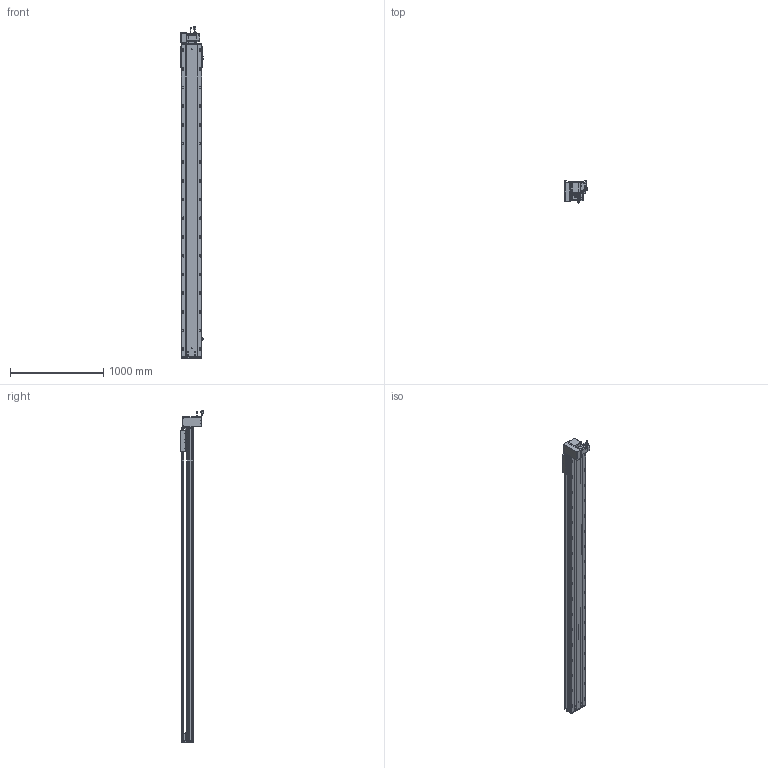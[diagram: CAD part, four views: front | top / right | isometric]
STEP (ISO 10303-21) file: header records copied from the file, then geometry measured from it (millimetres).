
FILE_DESCRIPTION (( 'STEP AP203' ), '1' );
FILE_NAME ('RY220-T-300-DL.SLDASM_3000.step', '2022-07-25T07:55:30', ( '' ), ( '' ), 'SwSTEP 2.0', 'SolidWorks 2016', '' );
FILE_SCHEMA (( 'CONFIG_CONTROL_DESIGN' ));
Length unit declared in the file: millimetre
Products named in the file (14): RY220-俋离672覜茼んえ; RY220-同步轮副支撑座6304×2; RY220-T-300-DL.SLDASM_3000; RY220圉猾敕々湍臏賑輸; RY220翋肮祭謫釱; RY220-T-300-奻裔啣_3000; 怢湛750W_ECMA-CX0807ES; RY220-T-湍謫欶(鍼踢); 覜茼ん672; RY220翋肮祭謫裔啣; 110A-T-肮祭謫釱傷裔; RY220-T-蛌殏萇儂假蚾啣(750W); RY220-T菁釱-300_3000; 滅袉蝶18-15
Assembly tree (18 placements, depth 2):
  RY220-T-300-DL.SLDASM_3000
    RY220-T菁釱-300_3000
    RY220翋肮祭謫釱
    覜茼ん672  x3
    RY220圉猾敕々湍臏賑輸
    RY220-T-300-奻裔啣_3000
    RY220-俋离672覜茼んえ
    滅袉蝶18-15  x3
    RY220翋肮祭謫裔啣  x2
    110A-T-肮祭謫釱傷裔
    怢湛750W_ECMA-CX0807ES
    RY220-T-湍謫欶(鍼踢)
    RY220-T-蛌殏萇儂假蚾啣(750W)
    RY220-同步轮副支撑座6304×2
Bounding box: 239.7 x 240.74 x 3553.27 mm (x, y, z)
Volume: 25205247.5 mm3; surface area: 7798765.6 mm2
Topology: 19 solids, 19 shells, 3028 faces, 8375 edges, 5240 vertices
Faces by surface type: cylinder 1496, plane 1069, cone 381, bspline 56, sphere 16, torus 10
Entity records: 100931 total; most frequent: CARTESIAN_POINT 28435, ORIENTED_EDGE 14970, DIRECTION 14476, EDGE_CURVE 7485, AXIS2_PLACEMENT_3D 5230, VERTEX_POINT 4864, VECTOR 4016, LINE 4016
